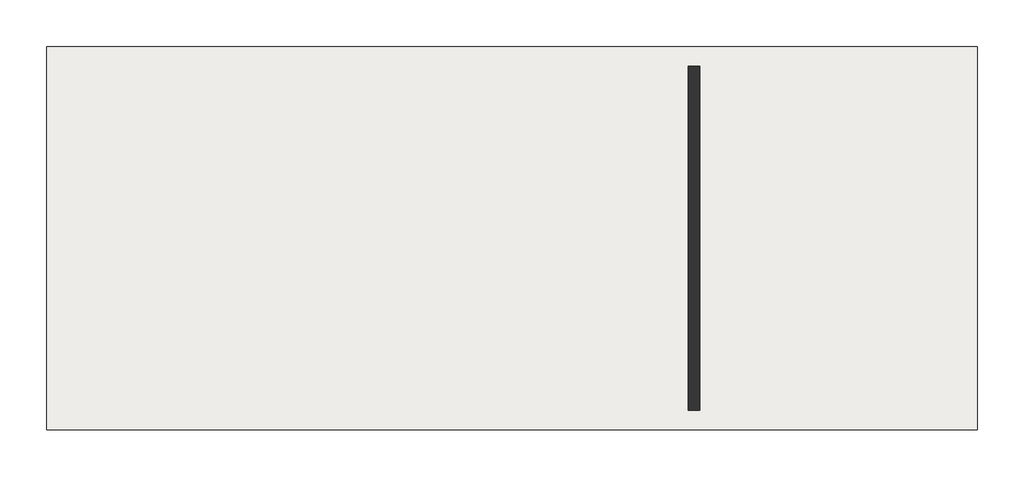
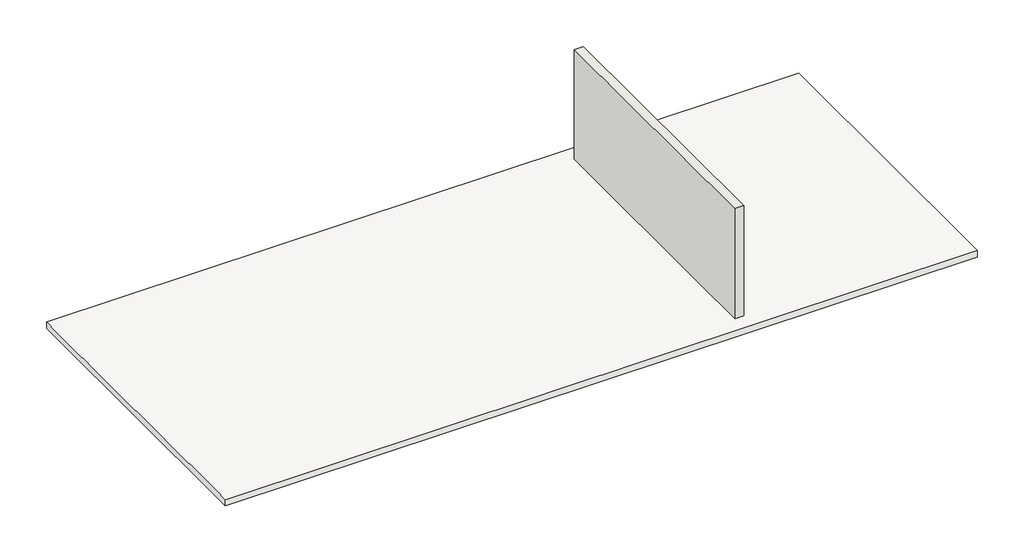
# One storey: 1 slab, 1 wall.
"""IFC4 building model written with IfcOpenShell, lengths in millimetres."""

from ifc_helpers import new_model, si_unit, frame, origin, place, context, project, spatial, polyline, outline, extrude, faceted_brep, element, save

model = new_model("IFC4")

# Units and contexts
model_context = context("Model", 3, world=origin())
ifc_project = project(units=[si_unit("LENGTHUNIT", "METRE", prefix="MILLI")], contexts=[model_context])

# Site, building, storey
site = spatial("IfcSite", under=ifc_project)
building = spatial("IfcBuilding", under=site)
storey = spatial("IfcBuildingStorey", under=building, Name="Уровень 2", Elevation=2700.0)

# Slab
placement = place(None, origin())
element("IfcSlab", 1, ObjectType="Типовой 150мм", at=placement, inside=storey, context=model_context, shape_type="Brep", body=[
    faceted_brep([(-175.0, 6525.0, 2550.0), (16285.0, 6525.0, 2550.0), (16285.0, 6175.0, 2550.0), (16285.0, 95.0, 2550.0), (16285.0, -255.0, 2550.0), (-175.0, -255.0, 2550.0), (-175.0, 95.0, 2550.0), (-175.0, 6175.0, 2550.0), (-175.0, 6525.0, 2700.0), (-175.0, 6175.0, 2700.0), (-175.0, 95.0, 2700.0), (-175.0, -255.0, 2700.0), (16285.0, -255.0, 2700.0), (16285.0, 95.0, 2700.0), (16285.0, 6175.0, 2700.0), (16285.0, 6525.0, 2700.0)], [[[0, 1, 2, 3, 4, 5, 6, 7]], [[8, 9, 10, 11, 12, 13, 14, 15]], [[1, 0, 8, 15]], [[4, 3, 2, 1, 15, 14, 13, 12]], [[5, 4, 12, 11]], [[0, 7, 6, 5, 11, 10, 9, 8]]]),
])

# Wall
element("IfcWall", 2, ObjectType="Типовой - 200мм", at=placement, inside=storey, context=model_context, shape_type="SweptSolid", body=[
    extrude(outline(polyline([(11175.0, 95.0), (11175.0, 6175.0), (11375.0, 6175.0), (11375.0, 95.0), (11175.0, 95.0)])), frame((0.0, 0.0, 2700.0), z_axis=(0.0, 0.0, 1.0), x_axis=(1.0, 0.0, 0.0)), (0.0, 0.0, 1.0), 2550.0),
])

save(model, "model.ifc")
